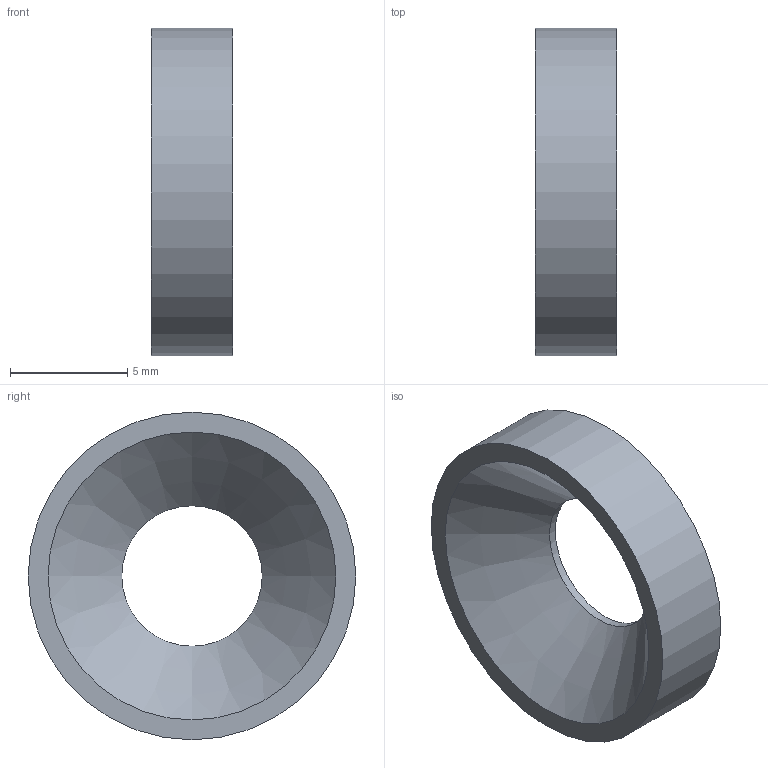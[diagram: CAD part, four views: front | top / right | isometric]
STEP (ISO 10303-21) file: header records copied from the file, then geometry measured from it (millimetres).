
FILE_DESCRIPTION(/* description */ ('STEP AP214'),/* implementation_level */ '2;1');
FILE_NAME(/* name */ 'Mounting Accessory GN 753.2-6-8-3_5-U-NI',/* time_stamp */ '2024-12-09T14:00:15+01:00',/* author */ ('License CC BY-ND 4.0'),/* organization */ ('CADENAS'),/* preprocessor_version */ 'ST-DEVELOPER v19.3',/* originating_system */ 'PARTsolutions',/* authorisation */ ' ');
FILE_SCHEMA (('AUTOMOTIVE_DESIGN {1 0 10303 214 3 1 1}'));
Length unit declared in the file: millimetre
Products named in the file (1): Mounting Accessory GN 753.2-6-8-3,5-U-NI
Bounding box: 3.5 x 14 x 14 mm (x, y, z)
Volume: 313.6 mm3; surface area: 449.4 mm2
Topology: 1 solids, 1 shells, 5 faces, 8 edges, 5 vertices
Faces by surface type: plane 2, cylinder 2, cone 1
Full cylindrical faces by diameter (mm): 6 x1, 14 x1
Entity records: 138 total; most frequent: DIRECTION 22, CARTESIAN_POINT 16, AXIS2_PLACEMENT_3D 11, ORIENTED_EDGE 10, EDGE_LOOP 10, FACE_BOUND 10, EDGE_CURVE 5, VERTEX_POINT 5
